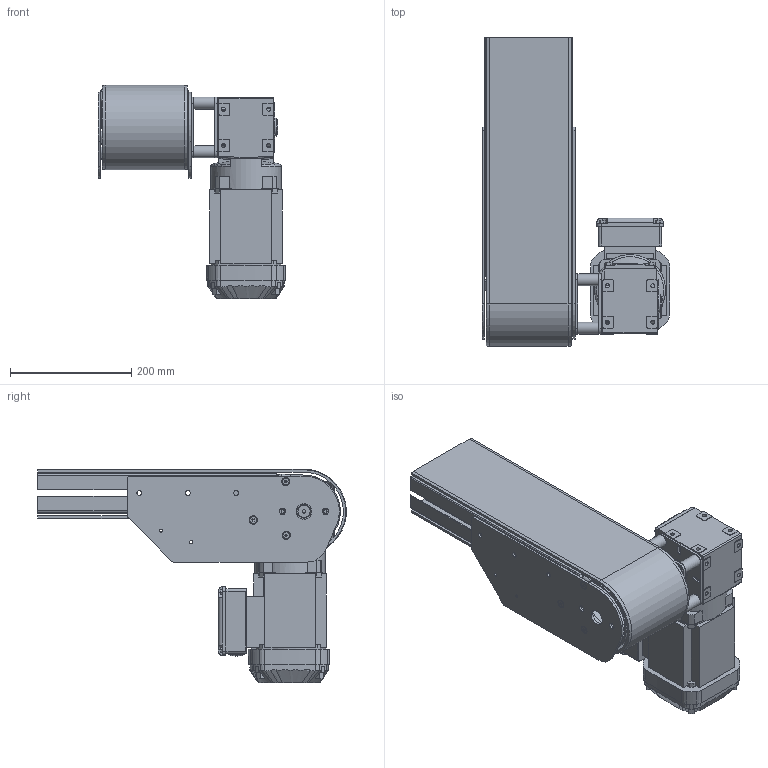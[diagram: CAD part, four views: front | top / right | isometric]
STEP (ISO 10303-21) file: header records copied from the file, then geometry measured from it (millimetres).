
FILE_DESCRIPTION(/* description */ ('DRIVE UNIT S540'),/* implementation_level */ '2;1');
FILE_NAME(/* name */ '540-30-VL.stp',/* time_stamp */ '2022-09-21T07:40:38+02:00',/* author */ ('PL'),/* organization */ ('CARRYLINE'),/* preprocessor_version */ 'ST-DEVELOPER v19.2',/* originating_system */ 'Autodesk Inventor 2023',/* authorisation */ '');
FILE_SCHEMA (('AUTOMOTIVE_DESIGN { 1 0 10303 214 3 1 1 }'));
Length unit declared in the file: millimetre
Products named in the file (6): 540-30-VL; Drivände S540; 900-4030; 500-3077; 500-3150; 500-3075
Assembly tree (8 placements, depth 2):
  540-30-VL
    Drivände S540
    900-4030
    500-3077
    500-3150  x4
    500-3075
Bounding box: 310.41 x 509.96 x 353 mm (x, y, z)
Volume: 6109044.3 mm3; surface area: 1050818.6 mm2
Topology: 8 solids, 10 shells, 1152 faces, 3109 edges, 2020 vertices
Faces by surface type: plane 603, cylinder 424, cone 89, bspline 33, sphere 2, torus 1
Full cylindrical faces by diameter (mm): 5.2 x4, 6 x15, 6.2 x6, 6.6 x8, 6.647 x4, 8.2 x6, 10.2 x4, 11 x8, 11.34 x6, 20 x5, 25 x1, 26 x3, 28 x1, 30 x2, 37 x1, 117 x1
Entity records: 38579 total; most frequent: CARTESIAN_POINT 8892, DIRECTION 6123, ORIENTED_EDGE 6114, EDGE_CURVE 3057, AXIS2_PLACEMENT_3D 2125, VERTEX_POINT 1993, LINE 1873, VECTOR 1873
